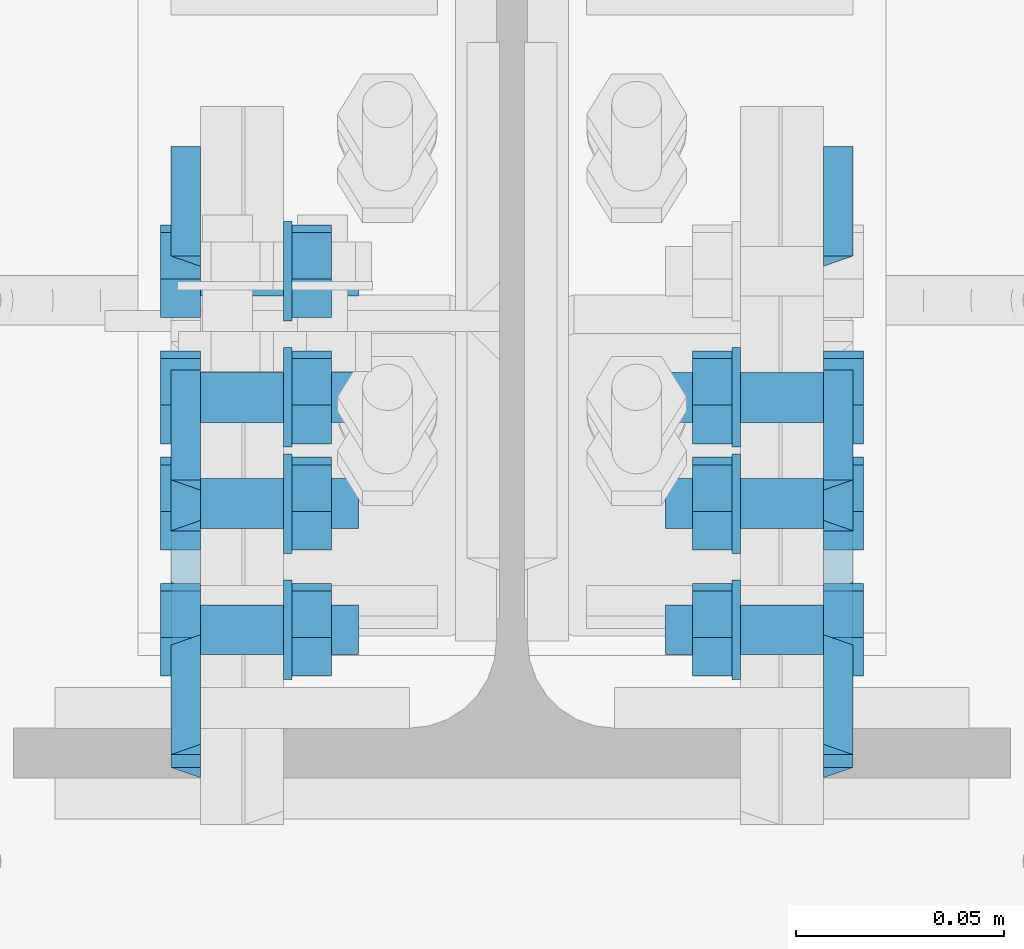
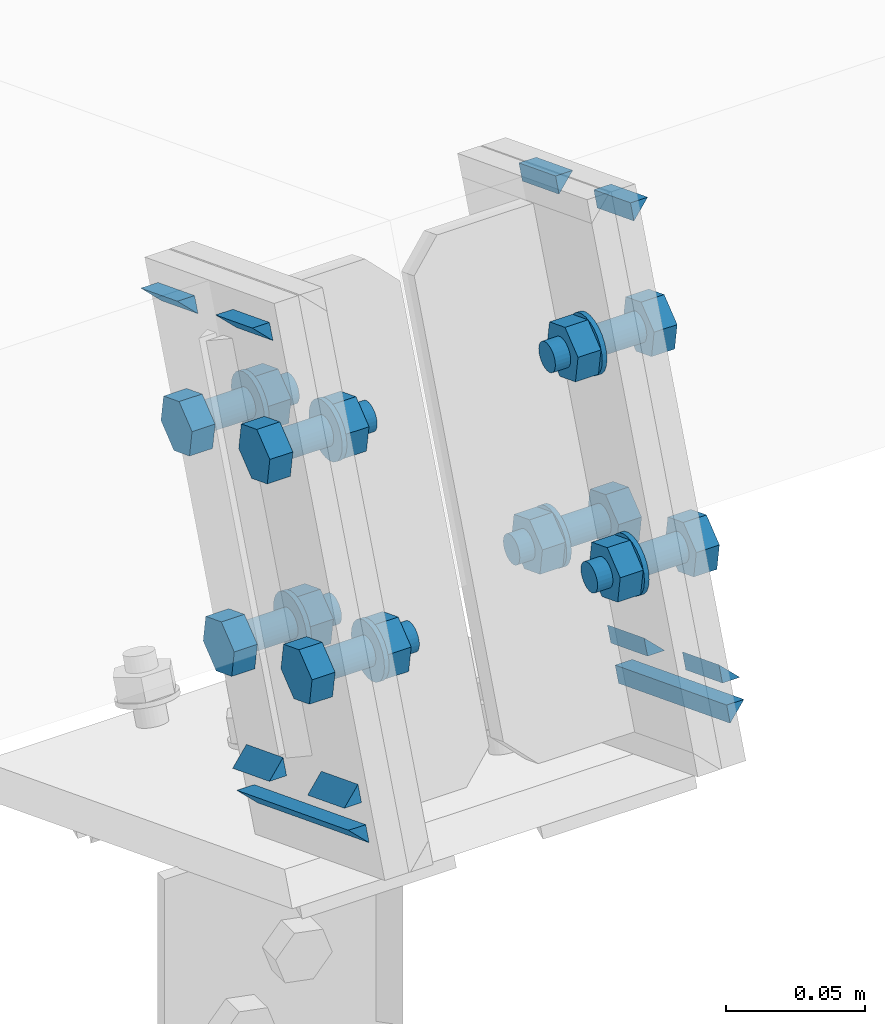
# One storey, part 27 of 72: 28 mechanical fasteners, 19 fasteners.
"""IFC4 building model written with IfcOpenShell, lengths in metres."""

from ifc_helpers import new_model, si_unit, frame, origin_with_axes, place, context, project, spatial, polyline, outline, extrude, type_object, element, save


model = new_model("IFC4")

# Units and contexts
model_context = context("Model", 3, precision=1e-05, world=origin_with_axes())
ifc_project = project(units=[si_unit("LENGTHUNIT", "METRE"), si_unit("AREAUNIT", "SQUARE_METRE"), si_unit("VOLUMEUNIT", "CUBIC_METRE"), si_unit("MASSUNIT", "GRAM", prefix="KILO"), si_unit("TIMEUNIT", "SECOND"), si_unit("PLANEANGLEUNIT", "RADIAN"), si_unit("SOLIDANGLEUNIT", "STERADIAN"), si_unit("THERMODYNAMICTEMPERATUREUNIT", "DEGREE_CELSIUS")], contexts=[model_context])

# Site, building, storey
placement_1 = place(None, origin_with_axes())
site = spatial("IfcSite", under=ifc_project, at=placement_1, Name="Italia", CompositionType="ELEMENT")
building = spatial("IfcBuilding", under=site, at=placement_1, Name="Uffici", CompositionType="ELEMENT")
storey = spatial("IfcBuildingStorey", under=building, at=placement_1, Name="Storey 0", CompositionType="ELEMENT", Elevation=0.0)

# Fasteners
fastener_type_1 = type_object("IfcFastenerType", Name="Collegamento 0202_0201", PredefinedType="WELD")
placement_2 = place(placement_1, origin_with_axes())
fastener_1_placement = place(placement_2, origin_with_axes())
element("IfcFastener", 1, at=fastener_1_placement, inside=storey, type_object=fastener_type_1, Name="Collegamento 0202_0201", context=model_context, shape_type="SweptSolid", body=[
    extrude(outline(polyline([(0.0, 0.0), (0.00717354, -0.00695753), (0.0, -0.00695753), (0.0, 0.0)])), frame((3.13005, -0.0529705, 7.06256), z_axis=(0.0, 0.932390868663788, -0.36145156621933), x_axis=(-1.0, 0.0, 0.0)), (0.0, 0.0, 1.0), 0.0283001),
])
fastener_type_2 = type_object("IfcFastenerType", Name="Collegamento 0202_0201", PredefinedType="WELD")
fastener_2_placement = place(placement_2, origin_with_axes())
element("IfcFastener", 2, at=fastener_2_placement, inside=storey, type_object=fastener_type_2, Name="Collegamento 0202_0201", context=model_context, shape_type="SweptSolid", body=[
    extrude(outline(polyline([(0.0, 0.0), (-0.00717354, 0.00695801), (0.0, 0.00695801), (0.0, 0.0)])), frame((3.13005, -0.0346503, 7.03152), z_axis=(0.0, -0.93238765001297, 0.361459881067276), x_axis=(1.0, 0.0, 0.0)), (0.0, 0.0, 1.0), 0.0861001),
])
fastener_type_3 = type_object("IfcFastenerType", Name="Collegamento 0202_0201", PredefinedType="WELD")
fastener_3_placement = place(placement_2, origin_with_axes())
element("IfcFastener", 3, at=fastener_3_placement, inside=storey, type_object=fastener_type_3, Name="Collegamento 0202_0201", context=model_context, shape_type="SweptSolid", body=[
    extrude(outline(polyline([(0.0, 0.0), (0.00717354, -0.00695848), (0.0, -0.00695848), (0.0, 0.0)])), frame((3.13005, -0.106862, 7.08345), z_axis=(0.0, 0.932385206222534, -0.361466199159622), x_axis=(-1.0, 0.0, 0.0)), (0.0, 0.0, 1.0), 0.0283003),
])
fastener_type_4 = type_object("IfcFastenerType", Name="Collegamento 0202_0201", PredefinedType="WELD")
fastener_4_placement = place(placement_2, origin_with_axes())
element("IfcFastener", 4, at=fastener_4_placement, inside=storey, type_object=fastener_type_4, Name="Collegamento 0202_0201", context=model_context, shape_type="SweptSolid", body=[
    extrude(outline(polyline([(0.0, 0.0), (-0.00717354, 0.00695848), (0.0, 0.00695848), (0.0, 0.0)])), frame((3.13005, -0.0193225, 7.23096), z_axis=(0.0, -0.932388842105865, 0.361456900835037), x_axis=(1.0, 0.0, 0.0)), (0.0, 0.0, 1.0), 0.0282997),
])
fastener_type_5 = type_object("IfcFastenerType", Name="Collegamento 0202_0201", PredefinedType="WELD")
fastener_5_placement = place(placement_2, origin_with_axes())
element("IfcFastener", 5, at=fastener_5_placement, inside=storey, type_object=fastener_type_5, Name="Collegamento 0202_0201", context=model_context, shape_type="SweptSolid", body=[
    extrude(outline(polyline([(0.0, 0.0), (-0.00717354, 0.00695801), (0.0, 0.00695801), (0.0, 0.0)])), frame((3.13005, 0.0345697, 7.21007), z_axis=(0.0, -0.932385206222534, 0.361466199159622), x_axis=(1.0, 0.0, 0.0)), (0.0, 0.0, 1.0), 0.0283003),
])
fastener_type_6 = type_object("IfcFastenerType", Name="Collegamento 0202_0201", PredefinedType="WELD")
fastener_6_placement = place(placement_2, origin_with_axes())
element("IfcFastener", 6, at=fastener_6_placement, inside=storey, type_object=fastener_type_6, Name="Collegamento 0202_0201", context=model_context, shape_type="SweptSolid", body=[
    extrude(outline(polyline([(0.0, 0.0), (0.00717354, -0.00695753), (0.0, -0.00695753), (0.0, 0.0)])), frame((3.13005, -0.0529705, 7.06256), z_axis=(0.0, 0.932390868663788, -0.36145156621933), x_axis=(-1.0, 0.0, 0.0)), (0.0, 0.0, 1.0), 0.0283001),
])
fastener_type_7 = type_object("IfcFastenerType", Name="Collegamento 0202_0201", PredefinedType="WELD")
fastener_7_placement = place(placement_2, origin_with_axes())
element("IfcFastener", 7, at=fastener_7_placement, inside=storey, type_object=fastener_type_7, Name="Collegamento 0202_0201", context=model_context, shape_type="SweptSolid", body=[
    extrude(outline(polyline([(0.0, 0.0), (-0.00717354, 0.00695801), (0.0, 0.00695801), (0.0, 0.0)])), frame((3.13005, -0.0346503, 7.03152), z_axis=(0.0, -0.93238765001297, 0.361459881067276), x_axis=(1.0, 0.0, 0.0)), (0.0, 0.0, 1.0), 0.0861001),
])
fastener_type_8 = type_object("IfcFastenerType", Name="Collegamento 0202_0201", PredefinedType="WELD")
fastener_8_placement = place(placement_2, origin_with_axes())
element("IfcFastener", 8, at=fastener_8_placement, inside=storey, type_object=fastener_type_8, Name="Collegamento 0202_0201", context=model_context, shape_type="SweptSolid", body=[
    extrude(outline(polyline([(0.0, 0.0), (0.00717354, -0.00695848), (0.0, -0.00695848), (0.0, 0.0)])), frame((3.13005, -0.106862, 7.08345), z_axis=(0.0, 0.932385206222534, -0.361466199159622), x_axis=(-1.0, 0.0, 0.0)), (0.0, 0.0, 1.0), 0.0283003),
])
fastener_type_9 = type_object("IfcFastenerType", Name="Collegamento 0202_0201", PredefinedType="WELD")
fastener_9_placement = place(placement_2, origin_with_axes())
element("IfcFastener", 9, at=fastener_9_placement, inside=storey, type_object=fastener_type_9, Name="Collegamento 0202_0201", context=model_context, shape_type="SweptSolid", body=[
    extrude(outline(polyline([(0.0, 0.0), (-0.00717354, 0.00695848), (0.0, 0.00695848), (0.0, 0.0)])), frame((3.13005, -0.0193225, 7.23096), z_axis=(0.0, -0.932388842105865, 0.361456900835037), x_axis=(1.0, 0.0, 0.0)), (0.0, 0.0, 1.0), 0.0282997),
])

# Mechanical fasteners
mechanical_fastener_type_1 = type_object("IfcMechanicalFastenerType", Name="Collegamento 0202_0201", PredefinedType="BOLT")
mechanical_fastener_1_placement = place(placement_2, origin_with_axes())
element("IfcMechanicalFastener", 10, at=mechanical_fastener_1_placement, inside=storey, type_object=mechanical_fastener_type_1, Name="Collegamento 0202_0201", NominalDiameter=0.0119999, context=model_context, shape_type="SweptSolid", body=[
    extrude(outline(polyline([(0.0, 0.0), (-0.0111886, -0.00433731), (-0.0205394, 0.00318336), (-0.0187015, 0.0150418), (-0.00751284, 0.0193796), (0.0018379, 0.0118585), (0.0, 0.0)])), frame((3.13, -0.0327067, 7.08924), z_axis=(-1.0, 0.0, 0.0), x_axis=(0.0, -1.0, 0.0)), (0.0, 0.0, 1.0), 0.00959992),
])
mechanical_fastener_type_2 = type_object("IfcMechanicalFastenerType", Name="Collegamento 0202_0201", PredefinedType="BOLT")
mechanical_fastener_2_placement = place(placement_2, origin_with_axes())
element("IfcMechanicalFastener", 11, at=mechanical_fastener_2_placement, inside=storey, type_object=mechanical_fastener_type_2, Name="Collegamento 0202_0201", NominalDiameter=0.012, context=model_context, shape_type="SweptSolid", body=[
    extrude(outline(polyline([(0.0, 0.0), (-0.000204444, -0.00155306), (-0.000803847, -0.00299978), (-0.00175736, -0.00424242), (-0.003, -0.00519609), (-0.00444708, -0.00579548), (-0.006, -0.00600004), (-0.00755291, -0.00579548), (-0.009, -0.00519609), (-0.0102426, -0.00424242), (-0.0111962, -0.00299978), (-0.0117956, -0.00155306), (-0.012, 0.0), (-0.0117956, 0.00155306), (-0.0111962, 0.00299978), (-0.0102426, 0.00424242), (-0.009, 0.00519609), (-0.00755291, 0.00579548), (-0.006, 0.00600004), (-0.00444709, 0.00579548), (-0.003, 0.00519609), (-0.00175736, 0.00424242), (-0.000803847, 0.00299978), (-0.000204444, 0.00155306), (0.0, 0.0)])), frame((3.168, -0.029356, 7.09676), z_axis=(-1.0, 0.0, 0.0), x_axis=(0.0, -1.0, 0.0)), (0.0, 0.0, 1.0), 0.0379999),
])
mechanical_fastener_type_3 = type_object("IfcMechanicalFastenerType", Name="Collegamento 0202_0201", PredefinedType="BOLT")
mechanical_fastener_3_placement = place(placement_2, origin_with_axes())
element("IfcMechanicalFastener", 12, at=mechanical_fastener_3_placement, inside=storey, type_object=mechanical_fastener_type_3, Name="Collegamento 0202_0201", NominalDiameter=0.0119999, context=model_context, shape_type="SweptSolid", body=[
    extrude(outline(polyline([(0.0, 0.0), (-0.0111886, -0.00433731), (-0.0205394, 0.00318336), (-0.0187015, 0.0150418), (-0.00751284, 0.0193796), (0.0018379, 0.0118585), (0.0, 0.0)])), frame((3.1616, -0.0327067, 7.08924), z_axis=(-1.0, 0.0, 0.0), x_axis=(0.0, -1.0, 0.0)), (0.0, 0.0, 1.0), 0.00959992),
])
mechanical_fastener_type_4 = type_object("IfcMechanicalFastenerType", Name="Collegamento 0202_0201", PredefinedType="BOLT")
mechanical_fastener_4_placement = place(placement_2, origin_with_axes())
element("IfcMechanicalFastener", 13, at=mechanical_fastener_4_placement, inside=storey, type_object=mechanical_fastener_type_4, Name="Collegamento 0202_0201", NominalDiameter=0.024, context=model_context, shape_type="SweptSolid", body=[
    extrude(outline(polyline([(0.0, 0.0), (-0.000408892, -0.00310564), (-0.0016077, -0.00600004), (-0.00351472, -0.00848532), (-0.006, -0.0103922), (-0.00889417, -0.011591), (-0.012, -0.0120001), (-0.0151058, -0.011591), (-0.018, -0.0103922), (-0.0204853, -0.00848532), (-0.0223923, -0.00600004), (-0.0235911, -0.00310564), (-0.024, 0.0), (-0.0235911, 0.00310564), (-0.0223923, 0.00600004), (-0.0204853, 0.00848532), (-0.018, 0.0103922), (-0.0151058, 0.011591), (-0.012, 0.0120001), (-0.00889417, 0.011591), (-0.006, 0.0103922), (-0.00351471, 0.00848532), (-0.00160769, 0.00600004), (-0.000408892, 0.00310564), (0.0, 0.0)])), frame((3.152, -0.035356, 7.09676), z_axis=(-1.0, 0.0, 0.0), x_axis=(0.0, -1.0, 0.0)), (0.0, 0.0, 1.0), 0.00200009),
])
mechanical_fastener_type_5 = type_object("IfcMechanicalFastenerType", Name="Collegamento 0202_0201", PredefinedType="BOLT")
mechanical_fastener_5_placement = place(placement_2, origin_with_axes())
element("IfcMechanicalFastener", 14, at=mechanical_fastener_5_placement, inside=storey, type_object=mechanical_fastener_type_5, Name="Collegamento 0202_0201", NominalDiameter=0.0119999, context=model_context, shape_type="SweptSolid", body=[
    extrude(outline(polyline([(0.0, 0.0), (-0.0111886, -0.00433779), (-0.0205394, 0.00318336), (-0.0187015, 0.0150418), (-0.00751284, 0.0193791), (0.00183791, 0.0118585), (0.0, 0.0)])), frame((3.13, -0.0886499, 7.11092), z_axis=(-1.0, 0.0, 0.0), x_axis=(0.0, -1.0, 0.0)), (0.0, 0.0, 1.0), 0.00959992),
])
mechanical_fastener_type_6 = type_object("IfcMechanicalFastenerType", Name="Collegamento 0202_0201", PredefinedType="BOLT")
mechanical_fastener_6_placement = place(placement_2, origin_with_axes())
element("IfcMechanicalFastener", 15, at=mechanical_fastener_6_placement, inside=storey, type_object=mechanical_fastener_type_6, Name="Collegamento 0202_0201", NominalDiameter=0.012, context=model_context, shape_type="SweptSolid", body=[
    extrude(outline(polyline([(0.0, 0.0), (-0.000204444, -0.00155306), (-0.000803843, -0.00299978), (-0.00175735, -0.00424242), (-0.003, -0.00519609), (-0.00444708, -0.00579548), (-0.006, -0.00600004), (-0.00755291, -0.00579548), (-0.009, -0.00519609), (-0.0102426, -0.00424242), (-0.0111962, -0.00299978), (-0.0117956, -0.00155306), (-0.012, 0.0), (-0.0117956, 0.00155306), (-0.0111962, 0.00299978), (-0.0102426, 0.00424242), (-0.009, 0.00519609), (-0.00755291, 0.00579548), (-0.006, 0.00600004), (-0.00444708, 0.00579548), (-0.003, 0.00519609), (-0.00175735, 0.00424242), (-0.000803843, 0.00299978), (-0.000204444, 0.00155306), (0.0, 0.0)])), frame((3.168, -0.0852992, 7.11844), z_axis=(-1.0, 0.0, 0.0), x_axis=(0.0, -1.0, 0.0)), (0.0, 0.0, 1.0), 0.0379999),
])
mechanical_fastener_type_7 = type_object("IfcMechanicalFastenerType", Name="Collegamento 0202_0201", PredefinedType="BOLT")
mechanical_fastener_7_placement = place(placement_2, origin_with_axes())
element("IfcMechanicalFastener", 16, at=mechanical_fastener_7_placement, inside=storey, type_object=mechanical_fastener_type_7, Name="Collegamento 0202_0201", NominalDiameter=0.0119999, context=model_context, shape_type="SweptSolid", body=[
    extrude(outline(polyline([(0.0, 0.0), (-0.0111886, -0.00433779), (-0.0205394, 0.00318336), (-0.0187015, 0.0150418), (-0.00751284, 0.0193791), (0.00183791, 0.0118585), (0.0, 0.0)])), frame((3.1616, -0.0886499, 7.11092), z_axis=(-1.0, 0.0, 0.0), x_axis=(0.0, -1.0, 0.0)), (0.0, 0.0, 1.0), 0.00959992),
])
mechanical_fastener_type_8 = type_object("IfcMechanicalFastenerType", Name="Collegamento 0202_0201", PredefinedType="BOLT")
mechanical_fastener_8_placement = place(placement_2, origin_with_axes())
element("IfcMechanicalFastener", 17, at=mechanical_fastener_8_placement, inside=storey, type_object=mechanical_fastener_type_8, Name="Collegamento 0202_0201", NominalDiameter=0.024, context=model_context, shape_type="SweptSolid", body=[
    extrude(outline(polyline([(0.0, 0.0), (-0.000408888, -0.00310564), (-0.0016077, -0.00600004), (-0.00351472, -0.00848532), (-0.006, -0.0103922), (-0.00889418, -0.011591), (-0.012, -0.0120001), (-0.0151058, -0.011591), (-0.018, -0.0103922), (-0.0204853, -0.00848532), (-0.0223923, -0.00600004), (-0.0235911, -0.00310564), (-0.024, 0.0), (-0.0235911, 0.00310564), (-0.0223923, 0.00600004), (-0.0204853, 0.00848532), (-0.018, 0.0103922), (-0.0151058, 0.011591), (-0.012, 0.0120001), (-0.00889418, 0.011591), (-0.006, 0.0103922), (-0.00351471, 0.00848532), (-0.00160769, 0.00600004), (-0.000408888, 0.00310564), (0.0, 0.0)])), frame((3.152, -0.0912992, 7.11844), z_axis=(-1.0, 0.0, 0.0), x_axis=(0.0, -1.0, 0.0)), (0.0, 0.0, 1.0), 0.00200009),
])
mechanical_fastener_type_9 = type_object("IfcMechanicalFastenerType", Name="Collegamento 0202_0201", PredefinedType="BOLT")
mechanical_fastener_9_placement = place(placement_2, origin_with_axes())
element("IfcMechanicalFastener", 18, at=mechanical_fastener_9_placement, inside=storey, type_object=mechanical_fastener_type_9, Name="Collegamento 0202_0201", NominalDiameter=0.0119999, context=model_context, shape_type="SweptSolid", body=[
    extrude(outline(polyline([(0.0, 0.0), (-0.0111886, -0.00433731), (-0.0205394, 0.00318336), (-0.0187015, 0.0150418), (-0.00751284, 0.0193796), (0.00183791, 0.0118585), (0.0, 0.0)])), frame((3.13, -0.00234391, 7.16756), z_axis=(-1.0, 0.0, 0.0), x_axis=(0.0, -1.0, 0.0)), (0.0, 0.0, 1.0), 0.00959992),
])
mechanical_fastener_type_10 = type_object("IfcMechanicalFastenerType", Name="Collegamento 0202_0201", PredefinedType="BOLT")
mechanical_fastener_10_placement = place(placement_2, origin_with_axes())
element("IfcMechanicalFastener", 19, at=mechanical_fastener_10_placement, inside=storey, type_object=mechanical_fastener_type_10, Name="Collegamento 0202_0201", NominalDiameter=0.012, context=model_context, shape_type="SweptSolid", body=[
    extrude(outline(polyline([(0.0, 0.0), (-0.000204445, -0.00155306), (-0.000803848, -0.00299978), (-0.00175736, -0.00424242), (-0.003, -0.00519609), (-0.00444709, -0.00579548), (-0.006, -0.00600004), (-0.00755292, -0.00579548), (-0.009, -0.00519609), (-0.0102426, -0.00424242), (-0.0111962, -0.00299978), (-0.0117956, -0.00155306), (-0.012, 0.0), (-0.0117956, 0.00155306), (-0.0111962, 0.00299978), (-0.0102426, 0.00424242), (-0.009, 0.00519609), (-0.00755291, 0.00579548), (-0.006, 0.00600004), (-0.00444709, 0.00579548), (-0.003, 0.00519609), (-0.00175736, 0.00424242), (-0.000803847, 0.00299978), (-0.000204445, 0.00155306), (0.0, 0.0)])), frame((3.168, 0.00100683, 7.17508), z_axis=(-1.0, 0.0, 0.0), x_axis=(0.0, -1.0, 0.0)), (0.0, 0.0, 1.0), 0.0379999),
])
mechanical_fastener_type_11 = type_object("IfcMechanicalFastenerType", Name="Collegamento 0202_0201", PredefinedType="BOLT")
mechanical_fastener_11_placement = place(placement_2, origin_with_axes())
element("IfcMechanicalFastener", 20, at=mechanical_fastener_11_placement, inside=storey, type_object=mechanical_fastener_type_11, Name="Collegamento 0202_0201", NominalDiameter=0.0119999, context=model_context, shape_type="SweptSolid", body=[
    extrude(outline(polyline([(0.0, 0.0), (-0.0111886, -0.00433731), (-0.0205394, 0.00318336), (-0.0187015, 0.0150418), (-0.00751284, 0.0193796), (0.00183791, 0.0118585), (0.0, 0.0)])), frame((3.1616, -0.00234391, 7.16756), z_axis=(-1.0, 0.0, 0.0), x_axis=(0.0, -1.0, 0.0)), (0.0, 0.0, 1.0), 0.00959992),
])
mechanical_fastener_type_12 = type_object("IfcMechanicalFastenerType", Name="Collegamento 0202_0201", PredefinedType="BOLT")
mechanical_fastener_12_placement = place(placement_2, origin_with_axes())
element("IfcMechanicalFastener", 21, at=mechanical_fastener_12_placement, inside=storey, type_object=mechanical_fastener_type_12, Name="Collegamento 0202_0201", NominalDiameter=0.024, context=model_context, shape_type="SweptSolid", body=[
    extrude(outline(polyline([(0.0, 0.0), (-0.00040889, -0.00310564), (-0.0016077, -0.00600004), (-0.00351472, -0.00848532), (-0.006, -0.0103922), (-0.00889417, -0.011591), (-0.012, -0.0120001), (-0.0151058, -0.011591), (-0.018, -0.0103922), (-0.0204853, -0.00848532), (-0.0223923, -0.00600004), (-0.0235911, -0.00310564), (-0.024, 0.0), (-0.0235911, 0.00310564), (-0.0223923, 0.00600004), (-0.0204853, 0.00848532), (-0.018, 0.0103922), (-0.0151058, 0.011591), (-0.012, 0.0120001), (-0.00889417, 0.011591), (-0.006, 0.0103922), (-0.00351472, 0.00848532), (-0.00160769, 0.00600004), (-0.00040889, 0.00310564), (0.0, 0.0)])), frame((3.152, -0.00499317, 7.17508), z_axis=(-1.0, 0.0, 0.0), x_axis=(0.0, -1.0, 0.0)), (0.0, 0.0, 1.0), 0.00200009),
])
mechanical_fastener_type_13 = type_object("IfcMechanicalFastenerType", Name="Collegamento 0202_0201", PredefinedType="BOLT")
mechanical_fastener_13_placement = place(placement_2, origin_with_axes())
element("IfcMechanicalFastener", 22, at=mechanical_fastener_13_placement, inside=storey, type_object=mechanical_fastener_type_13, Name="Collegamento 0202_0201", NominalDiameter=0.0119999, context=model_context, shape_type="SweptSolid", body=[
    extrude(outline(polyline([(0.0, 0.0), (-0.0111886, -0.00433779), (-0.0205394, 0.00318336), (-0.0187015, 0.0150418), (-0.00751285, 0.0193791), (0.0018379, 0.0118585), (0.0, 0.0)])), frame((3.13, -0.0582871, 7.18924), z_axis=(-1.0, 0.0, 0.0), x_axis=(0.0, -1.0, 0.0)), (0.0, 0.0, 1.0), 0.00959992),
])
mechanical_fastener_type_14 = type_object("IfcMechanicalFastenerType", Name="Collegamento 0202_0201", PredefinedType="BOLT")
mechanical_fastener_14_placement = place(placement_2, origin_with_axes())
element("IfcMechanicalFastener", 23, at=mechanical_fastener_14_placement, inside=storey, type_object=mechanical_fastener_type_14, Name="Collegamento 0202_0201", NominalDiameter=0.012, context=model_context, shape_type="SweptSolid", body=[
    extrude(outline(polyline([(0.0, 0.0), (-0.000204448, -0.00155306), (-0.000803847, -0.00299978), (-0.00175736, -0.00424242), (-0.003, -0.00519609), (-0.00444709, -0.00579548), (-0.006, -0.00600004), (-0.00755291, -0.00579548), (-0.009, -0.00519609), (-0.0102426, -0.00424242), (-0.0111962, -0.00299978), (-0.0117956, -0.00155306), (-0.012, 0.0), (-0.0117956, 0.00155306), (-0.0111962, 0.00299978), (-0.0102426, 0.00424242), (-0.009, 0.00519609), (-0.00755291, 0.00579548), (-0.006, 0.00600004), (-0.00444709, 0.00579548), (-0.003, 0.00519609), (-0.00175736, 0.00424242), (-0.000803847, 0.00299978), (-0.000204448, 0.00155306), (0.0, 0.0)])), frame((3.168, -0.0549364, 7.19676), z_axis=(-1.0, 0.0, 0.0), x_axis=(0.0, -1.0, 0.0)), (0.0, 0.0, 1.0), 0.0379999),
])
mechanical_fastener_type_15 = type_object("IfcMechanicalFastenerType", Name="Collegamento 0202_0201", PredefinedType="BOLT")
mechanical_fastener_15_placement = place(placement_2, origin_with_axes())
element("IfcMechanicalFastener", 24, at=mechanical_fastener_15_placement, inside=storey, type_object=mechanical_fastener_type_15, Name="Collegamento 0202_0201", NominalDiameter=0.0119999, context=model_context, shape_type="SweptSolid", body=[
    extrude(outline(polyline([(0.0, 0.0), (-0.0111886, -0.00433779), (-0.0205394, 0.00318336), (-0.0187015, 0.0150418), (-0.00751285, 0.0193791), (0.0018379, 0.0118585), (0.0, 0.0)])), frame((3.1616, -0.0582871, 7.18924), z_axis=(-1.0, 0.0, 0.0), x_axis=(0.0, -1.0, 0.0)), (0.0, 0.0, 1.0), 0.00959992),
])
mechanical_fastener_type_16 = type_object("IfcMechanicalFastenerType", Name="Collegamento 0202_0201", PredefinedType="BOLT")
mechanical_fastener_16_placement = place(placement_2, origin_with_axes())
element("IfcMechanicalFastener", 25, at=mechanical_fastener_16_placement, inside=storey, type_object=mechanical_fastener_type_16, Name="Collegamento 0202_0201", NominalDiameter=0.024, context=model_context, shape_type="SweptSolid", body=[
    extrude(outline(polyline([(0.0, 0.0), (-0.000408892, -0.00310564), (-0.0016077, -0.00600004), (-0.00351472, -0.00848532), (-0.006, -0.0103922), (-0.00889417, -0.011591), (-0.012, -0.0120001), (-0.0151058, -0.011591), (-0.018, -0.0103922), (-0.0204853, -0.00848532), (-0.0223923, -0.00600004), (-0.0235911, -0.00310564), (-0.024, 0.0), (-0.0235911, 0.00310564), (-0.0223923, 0.00600004), (-0.0204853, 0.00848532), (-0.018, 0.0103922), (-0.0151058, 0.011591), (-0.012, 0.0120001), (-0.00889418, 0.011591), (-0.006, 0.0103922), (-0.00351472, 0.00848532), (-0.00160769, 0.00600004), (-0.000408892, 0.00310564), (0.0, 0.0)])), frame((3.152, -0.0609364, 7.19676), z_axis=(-1.0, 0.0, 0.0), x_axis=(0.0, -1.0, 0.0)), (0.0, 0.0, 1.0), 0.00200009),
])

# Fasteners
fastener_type_10 = type_object("IfcFastenerType", Name="Collegamento 0202_0203", PredefinedType="WELD")
fastener_10_placement = place(placement_2, origin_with_axes())
element("IfcFastener", 26, at=fastener_10_placement, inside=storey, type_object=fastener_type_10, Name="Collegamento 0202_0203", context=model_context, shape_type="SweptSolid", body=[
    extrude(outline(polyline([(0.0, 0.0), (-0.00717354, 0.00695848), (0.0, 0.00695848), (0.0, 0.0)])), frame((3.27995, 0.00818294, 7.2203), z_axis=(0.0, 0.932385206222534, -0.361466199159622), x_axis=(-1.0, 0.0, 0.0)), (0.0, 0.0, 1.0), 0.0283003),
])
fastener_type_11 = type_object("IfcFastenerType", Name="Collegamento 0202_0203", PredefinedType="WELD")
fastener_11_placement = place(placement_2, origin_with_axes())
element("IfcFastener", 27, at=fastener_11_placement, inside=storey, type_object=fastener_type_11, Name="Collegamento 0202_0203", context=model_context, shape_type="SweptSolid", body=[
    extrude(outline(polyline([(0.0, 0.0), (0.00717354, -0.00695801), (0.0, -0.00695801), (0.0, 0.0)])), frame((3.27995, -0.0265838, 7.05233), z_axis=(0.0, -0.932390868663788, 0.36145156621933), x_axis=(1.0, 0.0, 0.0)), (0.0, 0.0, 1.0), 0.0283001),
])
fastener_type_12 = type_object("IfcFastenerType", Name="Collegamento 0202_0203", PredefinedType="WELD")
fastener_12_placement = place(placement_2, origin_with_axes())
element("IfcFastener", 28, at=fastener_12_placement, inside=storey, type_object=fastener_type_12, Name="Collegamento 0202_0203", context=model_context, shape_type="SweptSolid", body=[
    extrude(outline(polyline([(0.0, 0.0), (-0.00717354, 0.00695801), (0.0, 0.00695801), (0.0, 0.0)])), frame((3.27995, -0.114929, 7.06264), z_axis=(0.0, 0.93238765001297, -0.361459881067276), x_axis=(-1.0, 0.0, 0.0)), (0.0, 0.0, 1.0), 0.0861001),
])
fastener_type_13 = type_object("IfcFastenerType", Name="Collegamento 0202_0203", PredefinedType="WELD")
fastener_13_placement = place(placement_2, origin_with_axes())
element("IfcFastener", 29, at=fastener_13_placement, inside=storey, type_object=fastener_type_13, Name="Collegamento 0202_0203", context=model_context, shape_type="SweptSolid", body=[
    extrude(outline(polyline([(0.0, 0.0), (0.00717354, -0.00695753), (0.0, -0.00695753), (0.0, 0.0)])), frame((3.27995, -0.0804757, 7.07322), z_axis=(0.0, -0.932385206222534, 0.361466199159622), x_axis=(1.0, 0.0, 0.0)), (0.0, 0.0, 1.0), 0.0283003),
])
fastener_type_14 = type_object("IfcFastenerType", Name="Collegamento 0202_0203", PredefinedType="WELD")
fastener_14_placement = place(placement_2, origin_with_axes())
element("IfcFastener", 30, at=fastener_14_placement, inside=storey, type_object=fastener_type_14, Name="Collegamento 0202_0203", context=model_context, shape_type="SweptSolid", body=[
    extrude(outline(polyline([(0.0, 0.0), (-0.00717354, 0.00695848), (0.0, 0.00695848), (0.0, 0.0)])), frame((3.27995, -0.0457087, 7.24119), z_axis=(0.0, 0.932388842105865, -0.361456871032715), x_axis=(-1.0, 0.0, 0.0)), (0.0, 0.0, 1.0), 0.0282997),
])
fastener_type_15 = type_object("IfcFastenerType", Name="Collegamento 0202_0203", PredefinedType="WELD")
fastener_15_placement = place(placement_2, origin_with_axes())
element("IfcFastener", 31, at=fastener_15_placement, inside=storey, type_object=fastener_type_15, Name="Collegamento 0202_0203", context=model_context, shape_type="SweptSolid", body=[
    extrude(outline(polyline([(0.0, 0.0), (-0.00717354, 0.00695848), (0.0, 0.00695848), (0.0, 0.0)])), frame((3.27995, 0.00818294, 7.2203), z_axis=(0.0, 0.932385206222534, -0.361466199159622), x_axis=(-1.0, 0.0, 0.0)), (0.0, 0.0, 1.0), 0.0283003),
])
fastener_type_16 = type_object("IfcFastenerType", Name="Collegamento 0202_0203", PredefinedType="WELD")
fastener_16_placement = place(placement_2, origin_with_axes())
element("IfcFastener", 32, at=fastener_16_placement, inside=storey, type_object=fastener_type_16, Name="Collegamento 0202_0203", context=model_context, shape_type="SweptSolid", body=[
    extrude(outline(polyline([(0.0, 0.0), (0.00717354, -0.00695801), (0.0, -0.00695801), (0.0, 0.0)])), frame((3.27995, -0.0265838, 7.05233), z_axis=(0.0, -0.932390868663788, 0.36145156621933), x_axis=(1.0, 0.0, 0.0)), (0.0, 0.0, 1.0), 0.0283001),
])
fastener_type_17 = type_object("IfcFastenerType", Name="Collegamento 0202_0203", PredefinedType="WELD")
fastener_17_placement = place(placement_2, origin_with_axes())
element("IfcFastener", 33, at=fastener_17_placement, inside=storey, type_object=fastener_type_17, Name="Collegamento 0202_0203", context=model_context, shape_type="SweptSolid", body=[
    extrude(outline(polyline([(0.0, 0.0), (-0.00717354, 0.00695801), (0.0, 0.00695801), (0.0, 0.0)])), frame((3.27995, -0.114929, 7.06264), z_axis=(0.0, 0.93238765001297, -0.361459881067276), x_axis=(-1.0, 0.0, 0.0)), (0.0, 0.0, 1.0), 0.0861001),
])
fastener_type_18 = type_object("IfcFastenerType", Name="Collegamento 0202_0203", PredefinedType="WELD")
fastener_18_placement = place(placement_2, origin_with_axes())
element("IfcFastener", 34, at=fastener_18_placement, inside=storey, type_object=fastener_type_18, Name="Collegamento 0202_0203", context=model_context, shape_type="SweptSolid", body=[
    extrude(outline(polyline([(0.0, 0.0), (0.00717354, -0.00695753), (0.0, -0.00695753), (0.0, 0.0)])), frame((3.27995, -0.0804757, 7.07322), z_axis=(0.0, -0.932385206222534, 0.361466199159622), x_axis=(1.0, 0.0, 0.0)), (0.0, 0.0, 1.0), 0.0283003),
])
fastener_type_19 = type_object("IfcFastenerType", Name="Collegamento 0202_0203", PredefinedType="WELD")
fastener_19_placement = place(placement_2, origin_with_axes())
element("IfcFastener", 35, at=fastener_19_placement, inside=storey, type_object=fastener_type_19, Name="Collegamento 0202_0203", context=model_context, shape_type="SweptSolid", body=[
    extrude(outline(polyline([(0.0, 0.0), (-0.00717354, 0.00695848), (0.0, 0.00695848), (0.0, 0.0)])), frame((3.27995, -0.0457087, 7.24119), z_axis=(0.0, 0.932388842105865, -0.361456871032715), x_axis=(-1.0, 0.0, 0.0)), (0.0, 0.0, 1.0), 0.0282997),
])

# Mechanical fasteners
mechanical_fastener_type_17 = type_object("IfcMechanicalFastenerType", Name="Collegamento 0202_0203", PredefinedType="BOLT")
mechanical_fastener_17_placement = place(placement_2, origin_with_axes())
element("IfcMechanicalFastener", 36, at=mechanical_fastener_17_placement, inside=storey, type_object=mechanical_fastener_type_17, Name="Collegamento 0202_0203", NominalDiameter=0.0119999, context=model_context, shape_type="SweptSolid", body=[
    extrude(outline(polyline([(0.0, 0.0), (-0.0111886, 0.00433779), (-0.0130266, 0.0161963), (-0.0036758, 0.0237169), (0.00751284, 0.0193796), (0.00935075, 0.00752115), (0.0, 0.0)])), frame((3.28, -0.0774613, 7.10659), z_axis=(1.0, 0.0, 0.0), x_axis=(0.0, 1.0, 0.0)), (0.0, 0.0, 1.0), 0.00959992),
])
mechanical_fastener_type_18 = type_object("IfcMechanicalFastenerType", Name="Collegamento 0202_0203", PredefinedType="BOLT")
mechanical_fastener_18_placement = place(placement_2, origin_with_axes())
element("IfcMechanicalFastener", 37, at=mechanical_fastener_18_placement, inside=storey, type_object=mechanical_fastener_type_18, Name="Collegamento 0202_0203", NominalDiameter=0.012, context=model_context, shape_type="SweptSolid", body=[
    extrude(outline(polyline([(0.0, 0.0), (-0.000204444, -0.00155306), (-0.000803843, -0.00299978), (-0.00175735, -0.00424242), (-0.003, -0.00519609), (-0.00444708, -0.00579548), (-0.006, -0.00600004), (-0.00755291, -0.00579548), (-0.009, -0.00519609), (-0.0102426, -0.00424242), (-0.0111962, -0.00299978), (-0.0117956, -0.00155306), (-0.012, 0.0), (-0.0117956, 0.00155306), (-0.0111962, 0.00299978), (-0.0102426, 0.00424242), (-0.009, 0.00519609), (-0.00755291, 0.00579548), (-0.006, 0.00600004), (-0.00444708, 0.00579548), (-0.003, 0.00519609), (-0.00175735, 0.00424242), (-0.000803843, 0.00299978), (-0.000204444, 0.00155306), (0.0, 0.0)])), frame((3.242, -0.0732992, 7.11844), z_axis=(1.0, 0.0, 0.0), x_axis=(0.0, 1.0, 0.0)), (0.0, 0.0, 1.0), 0.0379999),
])
mechanical_fastener_type_19 = type_object("IfcMechanicalFastenerType", Name="Collegamento 0202_0203", PredefinedType="BOLT")
mechanical_fastener_19_placement = place(placement_2, origin_with_axes())
element("IfcMechanicalFastener", 38, at=mechanical_fastener_19_placement, inside=storey, type_object=mechanical_fastener_type_19, Name="Collegamento 0202_0203", NominalDiameter=0.0119999, context=model_context, shape_type="SweptSolid", body=[
    extrude(outline(polyline([(0.0, 0.0), (-0.0111886, 0.00433779), (-0.0130266, 0.0161963), (-0.0036758, 0.0237169), (0.00751284, 0.0193796), (0.00935075, 0.00752115), (0.0, 0.0)])), frame((3.2484, -0.0774613, 7.10659), z_axis=(1.0, 0.0, 0.0), x_axis=(0.0, 1.0, 0.0)), (0.0, 0.0, 1.0), 0.00959992),
])
mechanical_fastener_type_20 = type_object("IfcMechanicalFastenerType", Name="Collegamento 0202_0203", PredefinedType="BOLT")
mechanical_fastener_20_placement = place(placement_2, origin_with_axes())
element("IfcMechanicalFastener", 39, at=mechanical_fastener_20_placement, inside=storey, type_object=mechanical_fastener_type_20, Name="Collegamento 0202_0203", NominalDiameter=0.024, context=model_context, shape_type="SweptSolid", body=[
    extrude(outline(polyline([(0.0, 0.0), (-0.000408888, -0.00310564), (-0.0016077, -0.00600004), (-0.00351472, -0.00848532), (-0.006, -0.0103922), (-0.00889418, -0.011591), (-0.012, -0.0120001), (-0.0151058, -0.011591), (-0.018, -0.0103922), (-0.0204853, -0.00848532), (-0.0223923, -0.00600004), (-0.0235911, -0.00310564), (-0.024, 0.0), (-0.0235911, 0.00310564), (-0.0223923, 0.00600004), (-0.0204853, 0.00848532), (-0.018, 0.0103922), (-0.0151058, 0.011591), (-0.012, 0.0120001), (-0.00889418, 0.011591), (-0.006, 0.0103922), (-0.00351471, 0.00848532), (-0.00160769, 0.00600004), (-0.000408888, 0.00310564), (0.0, 0.0)])), frame((3.258, -0.0672992, 7.11844), z_axis=(1.0, 0.0, 0.0), x_axis=(0.0, 1.0, 0.0)), (0.0, 0.0, 1.0), 0.00200009),
])
mechanical_fastener_type_21 = type_object("IfcMechanicalFastenerType", Name="Collegamento 0202_0203", PredefinedType="BOLT")
mechanical_fastener_21_placement = place(placement_2, origin_with_axes())
element("IfcMechanicalFastener", 40, at=mechanical_fastener_21_placement, inside=storey, type_object=mechanical_fastener_type_21, Name="Collegamento 0202_0203", NominalDiameter=0.0119999, context=model_context, shape_type="SweptSolid", body=[
    extrude(outline(polyline([(0.0, 0.0), (-0.0111886, 0.00433731), (-0.0130265, 0.0161958), (-0.00367581, 0.0237169), (0.00751284, 0.0193791), (0.00935074, 0.00752068), (0.0, 0.0)])), frame((3.28, -0.021518, 7.0849), z_axis=(1.0, 0.0, 0.0), x_axis=(0.0, 1.0, 0.0)), (0.0, 0.0, 1.0), 0.00959992),
])
mechanical_fastener_type_22 = type_object("IfcMechanicalFastenerType", Name="Collegamento 0202_0203", PredefinedType="BOLT")
mechanical_fastener_22_placement = place(placement_2, origin_with_axes())
element("IfcMechanicalFastener", 41, at=mechanical_fastener_22_placement, inside=storey, type_object=mechanical_fastener_type_22, Name="Collegamento 0202_0203", NominalDiameter=0.012, context=model_context, shape_type="SweptSolid", body=[
    extrude(outline(polyline([(0.0, 0.0), (-0.000204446, -0.00155306), (-0.000803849, -0.00299978), (-0.00175736, -0.00424242), (-0.003, -0.00519609), (-0.00444709, -0.00579548), (-0.006, -0.00600004), (-0.00755292, -0.00579548), (-0.009, -0.00519609), (-0.0102426, -0.00424242), (-0.0111962, -0.00299978), (-0.0117956, -0.00155306), (-0.012, 0.0), (-0.0117956, 0.00155306), (-0.0111962, 0.00299978), (-0.0102426, 0.00424242), (-0.009, 0.00519609), (-0.00755291, 0.00579548), (-0.006, 0.00600004), (-0.00444709, 0.00579548), (-0.003, 0.00519609), (-0.00175736, 0.00424242), (-0.000803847, 0.00299978), (-0.000204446, 0.00155306), (0.0, 0.0)])), frame((3.242, -0.0173559, 7.09676), z_axis=(1.0, 0.0, 0.0), x_axis=(0.0, 1.0, 0.0)), (0.0, 0.0, 1.0), 0.0379999),
])
mechanical_fastener_type_23 = type_object("IfcMechanicalFastenerType", Name="Collegamento 0202_0203", PredefinedType="BOLT")
mechanical_fastener_23_placement = place(placement_2, origin_with_axes())
element("IfcMechanicalFastener", 42, at=mechanical_fastener_23_placement, inside=storey, type_object=mechanical_fastener_type_23, Name="Collegamento 0202_0203", NominalDiameter=0.0119999, context=model_context, shape_type="SweptSolid", body=[
    extrude(outline(polyline([(0.0, 0.0), (-0.0111886, 0.00433731), (-0.0130265, 0.0161958), (-0.00367581, 0.0237169), (0.00751284, 0.0193791), (0.00935074, 0.00752068), (0.0, 0.0)])), frame((3.2484, -0.021518, 7.0849), z_axis=(1.0, 0.0, 0.0), x_axis=(0.0, 1.0, 0.0)), (0.0, 0.0, 1.0), 0.00959992),
])
mechanical_fastener_type_24 = type_object("IfcMechanicalFastenerType", Name="Collegamento 0202_0203", PredefinedType="BOLT")
mechanical_fastener_24_placement = place(placement_2, origin_with_axes())
element("IfcMechanicalFastener", 43, at=mechanical_fastener_24_placement, inside=storey, type_object=mechanical_fastener_type_24, Name="Collegamento 0202_0203", NominalDiameter=0.024, context=model_context, shape_type="SweptSolid", body=[
    extrude(outline(polyline([(0.0, 0.0), (-0.00040889, -0.00310564), (-0.0016077, -0.00600004), (-0.00351472, -0.00848532), (-0.006, -0.0103922), (-0.00889417, -0.011591), (-0.012, -0.0120001), (-0.0151058, -0.011591), (-0.018, -0.0103922), (-0.0204853, -0.00848532), (-0.0223923, -0.00600004), (-0.0235911, -0.00310564), (-0.024, 0.0), (-0.0235911, 0.00310564), (-0.0223923, 0.00600004), (-0.0204853, 0.00848532), (-0.018, 0.0103922), (-0.0151058, 0.011591), (-0.012, 0.0120001), (-0.00889417, 0.011591), (-0.006, 0.0103922), (-0.00351472, 0.00848532), (-0.00160769, 0.00600004), (-0.00040889, 0.00310564), (0.0, 0.0)])), frame((3.258, -0.0113559, 7.09676), z_axis=(1.0, 0.0, 0.0), x_axis=(0.0, 1.0, 0.0)), (0.0, 0.0, 1.0), 0.00200009),
])
mechanical_fastener_type_25 = type_object("IfcMechanicalFastenerType", Name="Collegamento 0202_0203", PredefinedType="BOLT")
mechanical_fastener_25_placement = place(placement_2, origin_with_axes())
element("IfcMechanicalFastener", 44, at=mechanical_fastener_25_placement, inside=storey, type_object=mechanical_fastener_type_25, Name="Collegamento 0202_0203", NominalDiameter=0.0119999, context=model_context, shape_type="SweptSolid", body=[
    extrude(outline(polyline([(0.0, 0.0), (-0.0111886, 0.00433779), (-0.0130265, 0.0161963), (-0.0036758, 0.0237169), (0.00751284, 0.0193796), (0.00935074, 0.00752115), (0.0, 0.0)])), frame((3.28, -0.0470985, 7.18491), z_axis=(1.0, 0.0, 0.0), x_axis=(0.0, 1.0, 0.0)), (0.0, 0.0, 1.0), 0.00959992),
])
mechanical_fastener_type_26 = type_object("IfcMechanicalFastenerType", Name="Collegamento 0202_0203", PredefinedType="BOLT")
mechanical_fastener_26_placement = place(placement_2, origin_with_axes())
element("IfcMechanicalFastener", 45, at=mechanical_fastener_26_placement, inside=storey, type_object=mechanical_fastener_type_26, Name="Collegamento 0202_0203", NominalDiameter=0.012, context=model_context, shape_type="SweptSolid", body=[
    extrude(outline(polyline([(0.0, 0.0), (-0.000204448, -0.00155306), (-0.000803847, -0.00299978), (-0.00175736, -0.00424242), (-0.003, -0.00519609), (-0.00444709, -0.00579548), (-0.006, -0.00600004), (-0.00755291, -0.00579548), (-0.009, -0.00519609), (-0.0102426, -0.00424242), (-0.0111962, -0.00299978), (-0.0117956, -0.00155306), (-0.012, 0.0), (-0.0117956, 0.00155306), (-0.0111962, 0.00299978), (-0.0102426, 0.00424242), (-0.009, 0.00519609), (-0.00755291, 0.00579548), (-0.006, 0.00600004), (-0.00444709, 0.00579548), (-0.003, 0.00519609), (-0.00175736, 0.00424242), (-0.000803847, 0.00299978), (-0.000204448, 0.00155306), (0.0, 0.0)])), frame((3.242, -0.0429364, 7.19676), z_axis=(1.0, 0.0, 0.0), x_axis=(0.0, 1.0, 0.0)), (0.0, 0.0, 1.0), 0.0379999),
])
mechanical_fastener_type_27 = type_object("IfcMechanicalFastenerType", Name="Collegamento 0202_0203", PredefinedType="BOLT")
mechanical_fastener_27_placement = place(placement_2, origin_with_axes())
element("IfcMechanicalFastener", 46, at=mechanical_fastener_27_placement, inside=storey, type_object=mechanical_fastener_type_27, Name="Collegamento 0202_0203", NominalDiameter=0.0119999, context=model_context, shape_type="SweptSolid", body=[
    extrude(outline(polyline([(0.0, 0.0), (-0.0111886, 0.00433779), (-0.0130265, 0.0161963), (-0.0036758, 0.0237169), (0.00751284, 0.0193796), (0.00935074, 0.00752115), (0.0, 0.0)])), frame((3.2484, -0.0470985, 7.18491), z_axis=(1.0, 0.0, 0.0), x_axis=(0.0, 1.0, 0.0)), (0.0, 0.0, 1.0), 0.00959992),
])
mechanical_fastener_type_28 = type_object("IfcMechanicalFastenerType", Name="Collegamento 0202_0203", PredefinedType="BOLT")
mechanical_fastener_28_placement = place(placement_2, origin_with_axes())
element("IfcMechanicalFastener", 47, at=mechanical_fastener_28_placement, inside=storey, type_object=mechanical_fastener_type_28, Name="Collegamento 0202_0203", NominalDiameter=0.024, context=model_context, shape_type="SweptSolid", body=[
    extrude(outline(polyline([(0.0, 0.0), (-0.000408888, -0.00310564), (-0.00160769, -0.00600004), (-0.00351472, -0.00848532), (-0.006, -0.0103922), (-0.00889417, -0.011591), (-0.012, -0.0120001), (-0.0151058, -0.011591), (-0.018, -0.0103922), (-0.0204853, -0.00848532), (-0.0223923, -0.00600004), (-0.0235911, -0.00310564), (-0.024, 0.0), (-0.0235911, 0.00310564), (-0.0223923, 0.00600004), (-0.0204853, 0.00848532), (-0.018, 0.0103922), (-0.0151058, 0.011591), (-0.012, 0.0120001), (-0.00889417, 0.011591), (-0.006, 0.0103922), (-0.00351471, 0.00848532), (-0.00160769, 0.00600004), (-0.000408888, 0.00310564), (0.0, 0.0)])), frame((3.258, -0.0369364, 7.19676), z_axis=(1.0, 0.0, 0.0), x_axis=(0.0, 1.0, 0.0)), (0.0, 0.0, 1.0), 0.00200009),
])

save(model, "model.ifc")
